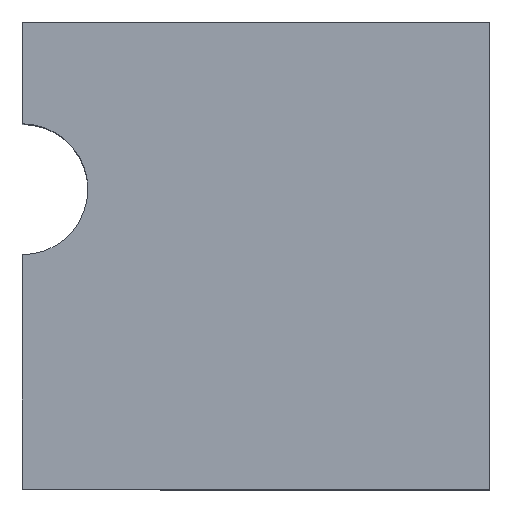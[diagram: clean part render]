
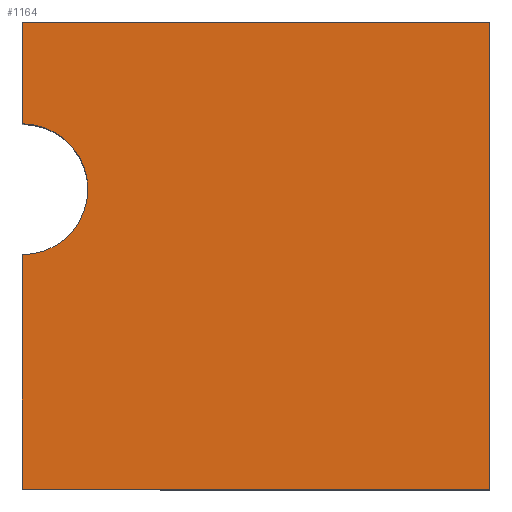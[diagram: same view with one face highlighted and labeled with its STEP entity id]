
A CAD part, top view. The second image highlights one B-rep face of the part: STEP entity #1164.
In plain terms, the highlighted planar face has unit normal (0, 0, 1).
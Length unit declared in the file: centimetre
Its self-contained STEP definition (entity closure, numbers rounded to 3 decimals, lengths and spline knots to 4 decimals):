
#20 = CARTESIAN_POINT ( 'NONE',  ( 0., 1000., 1000. ) ) ;
#30 = CARTESIAN_POINT ( 'NONE',  ( 0., 0., 1000. ) ) ;
#46 = CIRCLE ( 'NONE', #1654, 140.0874 ) ;
#48 = VERTEX_POINT ( 'NONE', #295 ) ;
#54 = LINE ( 'NONE', #1845, #803 ) ;
#104 = VERTEX_POINT ( 'NONE', #742 ) ;
#136 = ORIENTED_EDGE ( 'NONE', *, *, #1309, .T. ) ;
#161 = DIRECTION ( 'NONE',  ( -1., 0., 0. ) ) ;
#162 = CARTESIAN_POINT ( 'NONE',  ( 0., 641.9924, 1000. ) ) ;
#210 = DIRECTION ( 'NONE',  ( 0., -1., 0. ) ) ;
#266 = ORIENTED_EDGE ( 'NONE', *, *, #1078, .T. ) ;
#276 = VERTEX_POINT ( 'NONE', #1476 ) ;
#295 = CARTESIAN_POINT ( 'NONE',  ( 0., 501.905, 1000. ) ) ;
#311 = PLANE ( 'NONE',  #769 ) ;
#319 = DIRECTION ( 'NONE',  ( 1., 0., 0. ) ) ;
#344 = ORIENTED_EDGE ( 'NONE', *, *, #1759, .T. ) ;
#350 = FACE_OUTER_BOUND ( 'NONE', #725, .T. ) ;
#397 = VECTOR ( 'NONE', #161, 100. ) ;
#431 = ORIENTED_EDGE ( 'NONE', *, *, #1032, .T. ) ;
#453 = VECTOR ( 'NONE', #1215, 100. ) ;
#456 = DIRECTION ( 'NONE',  ( 0., 0., 1. ) ) ;
#457 = VECTOR ( 'NONE', #1814, 100. ) ;
#491 = LINE ( 'NONE', #1529, #453 ) ;
#597 = CARTESIAN_POINT ( 'NONE',  ( 0., 1000., 1000. ) ) ;
#725 = EDGE_LOOP ( 'NONE', ( #1135, #1322, #136, #266, #431, #344, #1470 ) ) ;
#742 = CARTESIAN_POINT ( 'NONE',  ( 1000., 1000., 1000. ) ) ;
#769 = AXIS2_PLACEMENT_3D ( 'NONE', #30, #945, #802 ) ;
#802 = DIRECTION ( 'NONE',  ( 1., 0., 0. ) ) ;
#803 = VECTOR ( 'NONE', #1367, 100. ) ;
#826 = VERTEX_POINT ( 'NONE', #980 ) ;
#926 = VERTEX_POINT ( 'NONE', #597 ) ;
#930 = CARTESIAN_POINT ( 'NONE',  ( 0., 0., 1000. ) ) ;
#945 = DIRECTION ( 'NONE',  ( 0., 0., 1. ) ) ;
#980 = CARTESIAN_POINT ( 'NONE',  ( 1000., 0., 1000. ) ) ;
#1019 = EDGE_CURVE ( 'NONE', #1429, #276, #46, .T. ) ;
#1032 = EDGE_CURVE ( 'NONE', #104, #926, #1669, .T. ) ;
#1050 = CIRCLE ( 'NONE', #1203, 140.0874 ) ;
#1051 = LINE ( 'NONE', #930, #457 ) ;
#1064 = DIRECTION ( 'NONE',  ( 0., 0., 1. ) ) ;
#1078 = EDGE_CURVE ( 'NONE', #826, #104, #54, .T. ) ;
#1083 = DIRECTION ( 'NONE',  ( 1., 0., 0. ) ) ;
#1135 = ORIENTED_EDGE ( 'NONE', *, *, #1232, .F. ) ;
#1164 = ADVANCED_FACE ( 'NONE', ( #350 ), #311, .T. ) ;
#1203 = AXIS2_PLACEMENT_3D ( 'NONE', #162, #1064, #1083 ) ;
#1215 = DIRECTION ( 'NONE',  ( 0., -1., 0. ) ) ;
#1232 = EDGE_CURVE ( 'NONE', #48, #1429, #1050, .T. ) ;
#1309 = EDGE_CURVE ( 'NONE', #1951, #826, #1051, .T. ) ;
#1322 = ORIENTED_EDGE ( 'NONE', *, *, #1516, .T. ) ;
#1367 = DIRECTION ( 'NONE',  ( 0., 1., 0. ) ) ;
#1376 = CARTESIAN_POINT ( 'NONE',  ( 140.0874, 641.9924, 1000. ) ) ;
#1429 = VERTEX_POINT ( 'NONE', #1376 ) ;
#1442 = LINE ( 'NONE', #1562, #1810 ) ;
#1470 = ORIENTED_EDGE ( 'NONE', *, *, #1019, .F. ) ;
#1476 = CARTESIAN_POINT ( 'NONE',  ( 0., 782.0797, 1000. ) ) ;
#1516 = EDGE_CURVE ( 'NONE', #48, #1951, #491, .T. ) ;
#1529 = CARTESIAN_POINT ( 'NONE',  ( 0., 1000., 1000. ) ) ;
#1534 = CARTESIAN_POINT ( 'NONE',  ( 0., 0., 1000. ) ) ;
#1562 = CARTESIAN_POINT ( 'NONE',  ( 0., 1000., 1000. ) ) ;
#1654 = AXIS2_PLACEMENT_3D ( 'NONE', #1790, #456, #319 ) ;
#1669 = LINE ( 'NONE', #20, #397 ) ;
#1759 = EDGE_CURVE ( 'NONE', #926, #276, #1442, .T. ) ;
#1790 = CARTESIAN_POINT ( 'NONE',  ( 0., 641.9924, 1000. ) ) ;
#1810 = VECTOR ( 'NONE', #210, 100. ) ;
#1814 = DIRECTION ( 'NONE',  ( 1., 0., 0. ) ) ;
#1845 = CARTESIAN_POINT ( 'NONE',  ( 1000., 1000., 1000. ) ) ;
#1951 = VERTEX_POINT ( 'NONE', #1534 ) ;
